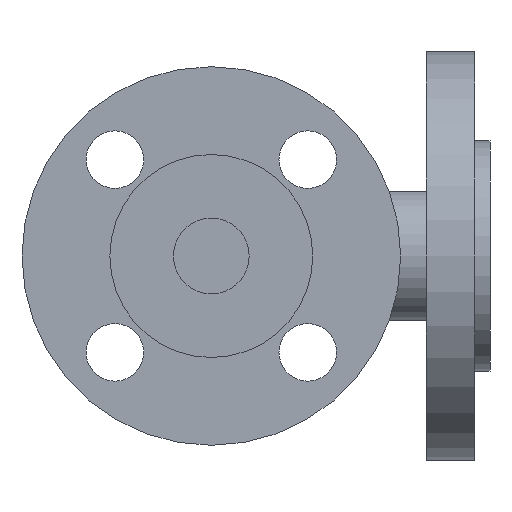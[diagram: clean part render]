
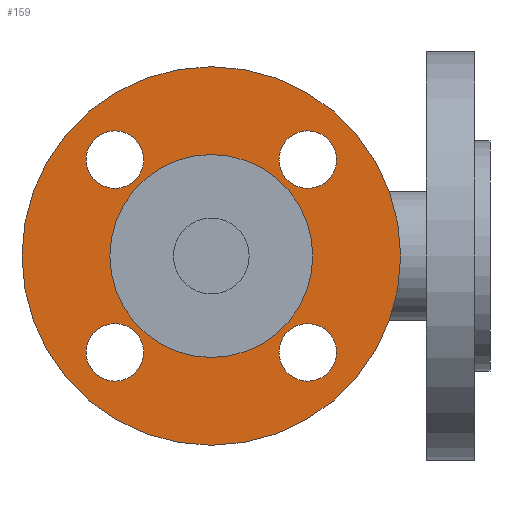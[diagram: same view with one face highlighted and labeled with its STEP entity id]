
A CAD part, front view. The second image highlights one B-rep face of the part: STEP entity #159.
In plain terms, the highlighted planar face has unit normal (0, -1, 0).
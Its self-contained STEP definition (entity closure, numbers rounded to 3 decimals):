
#159=ADVANCED_FACE('',(#786,#787,#788,#789,#790,#791),#785,.T.);
#785=PLANE('',#2612);
#786=FACE_OUTER_BOUND('',#2613,.T.);
#787=FACE_BOUND('',#2614,.T.);
#788=FACE_BOUND('',#2615,.T.);
#789=FACE_BOUND('',#2616,.T.);
#790=FACE_BOUND('',#2617,.T.);
#791=FACE_BOUND('',#2618,.T.);
#2609=CARTESIAN_POINT('',(-118.253,-114.,72.5));
#2610=DIRECTION('',(0.,-1.,0.));
#2611=DIRECTION('',(0.,0.,-1.));
#2612=AXIS2_PLACEMENT_3D('',#2609,#2610,#2611);
#2613=EDGE_LOOP('',(#4799,#4800));
#2614=EDGE_LOOP('',(#4801,#4802));
#2615=EDGE_LOOP('',(#4803,#4804,#4805));
#2616=EDGE_LOOP('',(#4806,#4807));
#2617=EDGE_LOOP('',(#4808,#4809));
#2618=EDGE_LOOP('',(#4810,#4811,#4812));
#4799=ORIENTED_EDGE('',*,*,#5652,.F.);
#4800=ORIENTED_EDGE('',*,*,#5653,.F.);
#4801=ORIENTED_EDGE('',*,*,#5654,.F.);
#4802=ORIENTED_EDGE('',*,*,#5655,.F.);
#4803=ORIENTED_EDGE('',*,*,#5656,.F.);
#4804=ORIENTED_EDGE('',*,*,#5657,.F.);
#4805=ORIENTED_EDGE('',*,*,#5658,.F.);
#4806=ORIENTED_EDGE('',*,*,#5659,.F.);
#4807=ORIENTED_EDGE('',*,*,#5660,.F.);
#4808=ORIENTED_EDGE('',*,*,#5661,.T.);
#4809=ORIENTED_EDGE('',*,*,#5662,.T.);
#4810=ORIENTED_EDGE('',*,*,#5663,.F.);
#4811=ORIENTED_EDGE('',*,*,#5664,.F.);
#4812=ORIENTED_EDGE('',*,*,#5665,.F.);
#5652=EDGE_CURVE('',#6898,#6899,#6900,.T.);
#5653=EDGE_CURVE('',#6899,#6898,#6906,.T.);
#5654=EDGE_CURVE('',#6912,#6913,#6914,.T.);
#5655=EDGE_CURVE('',#6913,#6912,#6920,.T.);
#5656=EDGE_CURVE('',#6926,#6927,#6928,.T.);
#5657=EDGE_CURVE('',#6934,#6926,#6935,.T.);
#5658=EDGE_CURVE('',#6927,#6934,#6941,.T.);
#5659=EDGE_CURVE('',#6947,#6948,#6949,.T.);
#5660=EDGE_CURVE('',#6948,#6947,#6955,.T.);
#5661=EDGE_CURVE('',#6961,#6962,#6963,.T.);
#5662=EDGE_CURVE('',#6962,#6961,#6969,.T.);
#5663=EDGE_CURVE('',#6975,#6976,#6977,.T.);
#5664=EDGE_CURVE('',#6983,#6975,#6984,.T.);
#5665=EDGE_CURVE('',#6976,#6983,#6990,.T.);
#6898=VERTEX_POINT('',#9795);
#6899=VERTEX_POINT('',#9796);
#6900=CIRCLE('',#9800,62.5);
#6906=CIRCLE('',#9804,62.5);
#6912=VERTEX_POINT('',#9805);
#6913=VERTEX_POINT('',#9806);
#6914=CIRCLE('',#9810,9.5);
#6920=CIRCLE('',#9814,9.5);
#6926=VERTEX_POINT('',#9815);
#6927=VERTEX_POINT('',#9816);
#6928=CIRCLE('',#9820,9.5);
#6934=VERTEX_POINT('',#9821);
#6935=CIRCLE('',#9825,9.5);
#6941=CIRCLE('',#9829,9.5);
#6947=VERTEX_POINT('',#9830);
#6948=VERTEX_POINT('',#9831);
#6949=CIRCLE('',#9835,9.5);
#6955=CIRCLE('',#9839,9.5);
#6961=VERTEX_POINT('',#9840);
#6962=VERTEX_POINT('',#9841);
#6963=CIRCLE('',#9845,33.5);
#6969=CIRCLE('',#9849,33.5);
#6975=VERTEX_POINT('',#9850);
#6976=VERTEX_POINT('',#9851);
#6977=CIRCLE('',#9855,9.5);
#6983=VERTEX_POINT('',#9856);
#6984=CIRCLE('',#9860,9.5);
#6990=CIRCLE('',#9864,9.5);
#9795=CARTESIAN_POINT('',(0.,-114.,-62.5));
#9796=CARTESIAN_POINT('',(0.,-114.,62.5));
#9797=CARTESIAN_POINT('',(0.,-114.,0.));
#9798=DIRECTION('',(0.,1.,0.));
#9799=DIRECTION('',(0.,0.,1.));
#9800=AXIS2_PLACEMENT_3D('',#9797,#9798,#9799);
#9801=CARTESIAN_POINT('',(0.,-114.,0.));
#9802=DIRECTION('',(0.,1.,0.));
#9803=DIRECTION('',(0.,0.,1.));
#9804=AXIS2_PLACEMENT_3D('',#9801,#9802,#9803);
#9805=CARTESIAN_POINT('',(31.82,-114.,-41.32));
#9806=CARTESIAN_POINT('',(31.82,-114.,-22.32));
#9807=CARTESIAN_POINT('',(31.82,-114.,-31.82));
#9808=DIRECTION('',(0.,-1.,0.));
#9809=DIRECTION('',(0.,0.,1.));
#9810=AXIS2_PLACEMENT_3D('',#9807,#9808,#9809);
#9811=CARTESIAN_POINT('',(31.82,-114.,-31.82));
#9812=DIRECTION('',(0.,-1.,0.));
#9813=DIRECTION('',(0.,0.,1.));
#9814=AXIS2_PLACEMENT_3D('',#9811,#9812,#9813);
#9815=CARTESIAN_POINT('',(31.821,-114.,41.32));
#9816=CARTESIAN_POINT('',(22.32,-114.,31.82));
#9817=CARTESIAN_POINT('',(31.82,-114.,31.82));
#9818=DIRECTION('',(0.,-1.,0.));
#9819=DIRECTION('',(-1.,0.,0.));
#9820=AXIS2_PLACEMENT_3D('',#9817,#9818,#9819);
#9821=CARTESIAN_POINT('',(31.82,-114.,22.32));
#9822=CARTESIAN_POINT('',(31.82,-114.,31.82));
#9823=DIRECTION('',(0.,-1.,0.));
#9824=DIRECTION('',(-1.,0.,0.));
#9825=AXIS2_PLACEMENT_3D('',#9822,#9823,#9824);
#9826=CARTESIAN_POINT('',(31.82,-114.,31.82));
#9827=DIRECTION('',(0.,-1.,0.));
#9828=DIRECTION('',(-1.,0.,0.));
#9829=AXIS2_PLACEMENT_3D('',#9826,#9827,#9828);
#9830=CARTESIAN_POINT('',(-31.82,-114.,41.32));
#9831=CARTESIAN_POINT('',(-31.82,-114.,22.32));
#9832=CARTESIAN_POINT('',(-31.82,-114.,31.82));
#9833=DIRECTION('',(0.,-1.,0.));
#9834=DIRECTION('',(0.,0.,-1.));
#9835=AXIS2_PLACEMENT_3D('',#9832,#9833,#9834);
#9836=CARTESIAN_POINT('',(-31.82,-114.,31.82));
#9837=DIRECTION('',(0.,-1.,0.));
#9838=DIRECTION('',(0.,0.,-1.));
#9839=AXIS2_PLACEMENT_3D('',#9836,#9837,#9838);
#9840=CARTESIAN_POINT('',(0.,-114.,33.5));
#9841=CARTESIAN_POINT('',(0.,-114.,-33.5));
#9842=CARTESIAN_POINT('',(0.,-114.,0.));
#9843=DIRECTION('',(0.,1.,0.));
#9844=DIRECTION('',(0.,0.,1.));
#9845=AXIS2_PLACEMENT_3D('',#9842,#9843,#9844);
#9846=CARTESIAN_POINT('',(0.,-114.,0.));
#9847=DIRECTION('',(0.,1.,0.));
#9848=DIRECTION('',(0.,0.,1.));
#9849=AXIS2_PLACEMENT_3D('',#9846,#9847,#9848);
#9850=CARTESIAN_POINT('',(-31.82,-114.,-41.32));
#9851=CARTESIAN_POINT('',(-22.32,-114.,-31.82));
#9852=CARTESIAN_POINT('',(-31.82,-114.,-31.82));
#9853=DIRECTION('',(0.,-1.,0.));
#9854=DIRECTION('',(1.,0.,0.));
#9855=AXIS2_PLACEMENT_3D('',#9852,#9853,#9854);
#9856=CARTESIAN_POINT('',(-31.821,-114.,-22.32));
#9857=CARTESIAN_POINT('',(-31.82,-114.,-31.82));
#9858=DIRECTION('',(0.,-1.,0.));
#9859=DIRECTION('',(1.,0.,0.));
#9860=AXIS2_PLACEMENT_3D('',#9857,#9858,#9859);
#9861=CARTESIAN_POINT('',(-31.82,-114.,-31.82));
#9862=DIRECTION('',(0.,-1.,0.));
#9863=DIRECTION('',(1.,0.,0.));
#9864=AXIS2_PLACEMENT_3D('',#9861,#9862,#9863);
